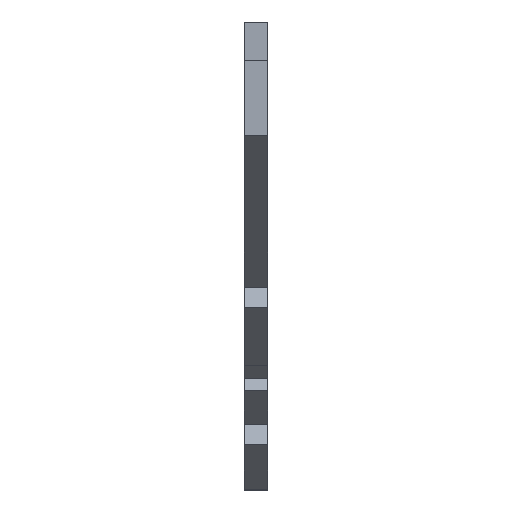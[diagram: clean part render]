
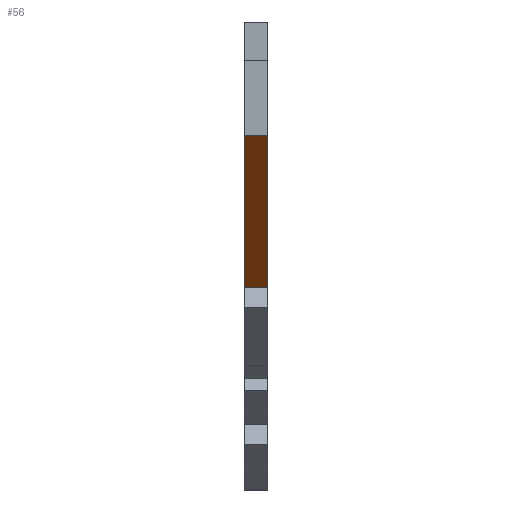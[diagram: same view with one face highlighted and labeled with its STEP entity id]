
A CAD part, top view. The second image highlights one B-rep face of the part: STEP entity #56.
In plain terms, the highlighted planar face has unit normal (0, -0.866, 0.5).
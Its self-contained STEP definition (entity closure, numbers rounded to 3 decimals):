
#56=ADVANCED_FACE('',(#111),#896,.T.);
#111=FACE_OUTER_BOUND('',#168,.T.);
#168=EDGE_LOOP('',(#422,#423,#424,#425));
#422=ORIENTED_EDGE('',*,*,#583,.T.);
#423=ORIENTED_EDGE('',*,*,#516,.T.);
#424=ORIENTED_EDGE('',*,*,#584,.F.);
#425=ORIENTED_EDGE('',*,*,#490,.F.);
#490=EDGE_CURVE('',#792,#793,#641,.T.);
#516=EDGE_CURVE('',#813,#812,#667,.T.);
#583=EDGE_CURVE('',#792,#813,#734,.T.);
#584=EDGE_CURVE('',#793,#812,#735,.T.);
#641=B_SPLINE_CURVE_WITH_KNOTS('',1,(#1286,#1287),.UNSPECIFIED.,.F.,.F.,
(2,2),(0.,3.),.UNSPECIFIED.);
#667=B_SPLINE_CURVE_WITH_KNOTS('',1,(#1338,#1339),.UNSPECIFIED.,.F.,.F.,
(2,2),(-3.,0.),.UNSPECIFIED.);
#734=B_SPLINE_CURVE_WITH_KNOTS('',1,(#1472,#1473),.UNSPECIFIED.,.F.,.F.,
(2,2),(2.572,3.),.UNSPECIFIED.);
#735=B_SPLINE_CURVE_WITH_KNOTS('',1,(#1474,#1475),.UNSPECIFIED.,.F.,.F.,
(2,2),(2.572,3.),.UNSPECIFIED.);
#792=VERTEX_POINT('',#1176);
#793=VERTEX_POINT('',#1177);
#812=VERTEX_POINT('',#1196);
#813=VERTEX_POINT('',#1197);
#896=PLANE('',#968);
#968=AXIS2_PLACEMENT_3D('',#1134,#1019,$);
#1019=DIRECTION('',(0.,-0.866,0.5));
#1134=CARTESIAN_POINT('',(-48.249,-195.045,42.469));
#1176=CARTESIAN_POINT('',(-48.249,-169.069,87.462));
#1177=CARTESIAN_POINT('',(-51.249,-169.069,87.462));
#1196=CARTESIAN_POINT('',(-51.249,-149.639,121.116));
#1197=CARTESIAN_POINT('',(-48.249,-149.639,121.116));
#1286=CARTESIAN_POINT('',(-48.249,-169.069,87.462));
#1287=CARTESIAN_POINT('',(-51.249,-169.069,87.462));
#1338=CARTESIAN_POINT('',(-48.249,-149.639,121.116));
#1339=CARTESIAN_POINT('',(-51.249,-149.639,121.116));
#1472=CARTESIAN_POINT('',(-48.249,-169.069,87.462));
#1473=CARTESIAN_POINT('',(-48.249,-149.639,121.116));
#1474=CARTESIAN_POINT('',(-51.249,-169.069,87.462));
#1475=CARTESIAN_POINT('',(-51.249,-149.639,121.116));
